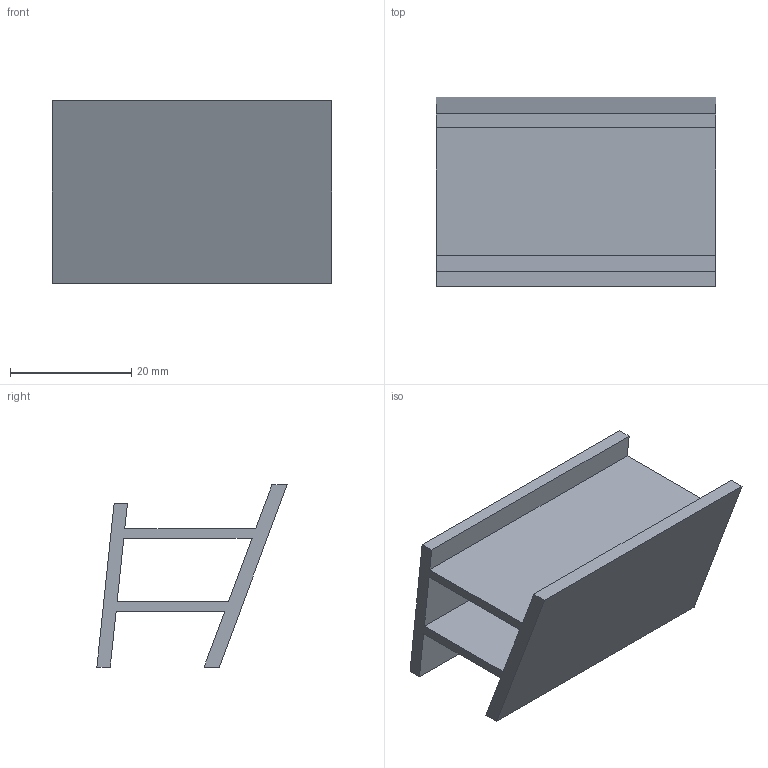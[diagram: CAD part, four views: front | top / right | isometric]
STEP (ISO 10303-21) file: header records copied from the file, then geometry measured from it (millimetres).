
FILE_DESCRIPTION(('Open CASCADE Model'),'2;1');
FILE_NAME('Open CASCADE Shape Model','2026-10-15T18:58:36',('Author'),( 'Open CASCADE'),'Open CASCADE STEP processor 7.9','Open CASCADE 7.9' ,'Unknown');
FILE_SCHEMA(('AUTOMOTIVE_DESIGN { 1 0 10303 214 1 1 1 1 }'));
Length unit declared in the file: millimetre
Products named in the file (1): Open CASCADE STEP translator 7.9 12
Bounding box: 46 x 31.33 x 30 mm (x, y, z)
Volume: 9087.5 mm3; surface area: 9596.9 mm2
Topology: 1 solids, 1 shells, 18 faces, 48 edges, 32 vertices
Faces by surface type: plane 18
Entity records: 1158 total; most frequent: CARTESIAN_POINT 227, DIRECTION 150, LINE 112, VECTOR 112, ORIENTED_EDGE 96, PCURVE 96, DEFINITIONAL_REPRESENTATION 96, EDGE_CURVE 48
